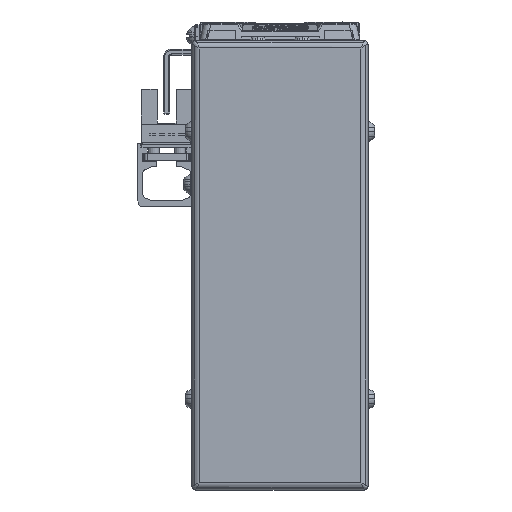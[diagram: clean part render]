
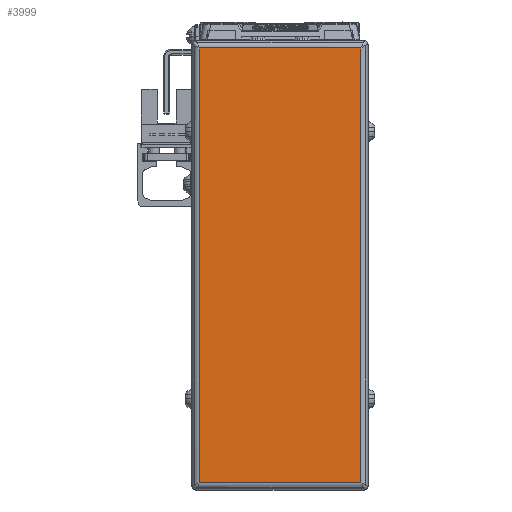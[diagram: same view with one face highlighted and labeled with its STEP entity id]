
A CAD part, left-side view. The second image highlights one B-rep face of the part: STEP entity #3999.
In plain terms, the highlighted planar face has unit normal (-1, 0, 0).
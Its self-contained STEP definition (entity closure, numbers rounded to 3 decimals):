
#3999=ADVANCED_FACE('',(#9581),#9582,.T.);
#9581=FACE_OUTER_BOUND('',#17910,.T.);
#9582=PLANE('',#17911);
#17910=EDGE_LOOP('',(#31333,#31334,#31335,#31336));
#17911=AXIS2_PLACEMENT_3D('',#31337,#31338,#31339);
#31333=ORIENTED_EDGE('',*,*,#50424,.F.);
#31334=ORIENTED_EDGE('',*,*,#47726,.F.);
#31335=ORIENTED_EDGE('',*,*,#50425,.F.);
#31336=ORIENTED_EDGE('',*,*,#49926,.F.);
#31337=CARTESIAN_POINT('',(-48.,0.,-42.5));
#31338=DIRECTION('',(-1.0,0.,0.));
#31339=DIRECTION('',(0.,0.,1.0));
#47726=EDGE_CURVE('',#56581,#56583,#56584,.T.);
#49926=EDGE_CURVE('',#60297,#60299,#60300,.T.);
#50424=EDGE_CURVE('',#56583,#60297,#61108,.T.);
#50425=EDGE_CURVE('',#60299,#56581,#61109,.T.);
#56581=VERTEX_POINT('',#69223);
#56583=VERTEX_POINT('',#69225);
#56584=LINE('',#69226,#69227);
#60297=VERTEX_POINT('',#74501);
#60299=VERTEX_POINT('',#74503);
#60300=LINE('',#74504,#74505);
#61108=LINE('',#75604,#75605);
#61109=LINE('',#75606,#75607);
#69223=CARTESIAN_POINT('',(-48.,21.7,-101.0));
#69225=CARTESIAN_POINT('',(-48.,21.7,16.));
#69226=CARTESIAN_POINT('',(-48.,21.7,-42.5));
#69227=VECTOR('',#86217,10.0);
#74501=CARTESIAN_POINT('',(-48.,-21.7,16.));
#74503=CARTESIAN_POINT('',(-48.,-21.7,-101.0));
#74504=CARTESIAN_POINT('',(-48.,-21.7,-42.5));
#74505=VECTOR('',#89040,10.0);
#75604=CARTESIAN_POINT('',(-48.,0.,16.));
#75605=VECTOR('',#89761,10.0);
#75606=CARTESIAN_POINT('',(-48.,0.,-101.0));
#75607=VECTOR('',#89762,10.0);
#86217=DIRECTION('',(0.,0.,1.0));
#89040=DIRECTION('',(0.,0.,-1.0));
#89761=DIRECTION('',(0.,-1.0,0.));
#89762=DIRECTION('',(0.,1.0,0.));
